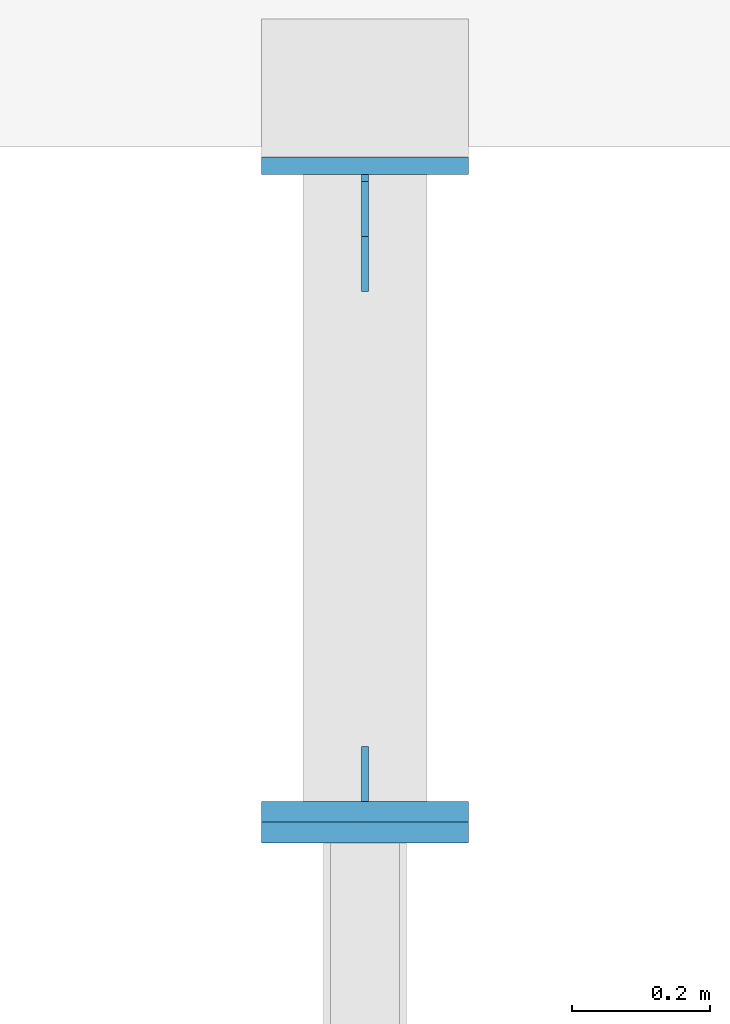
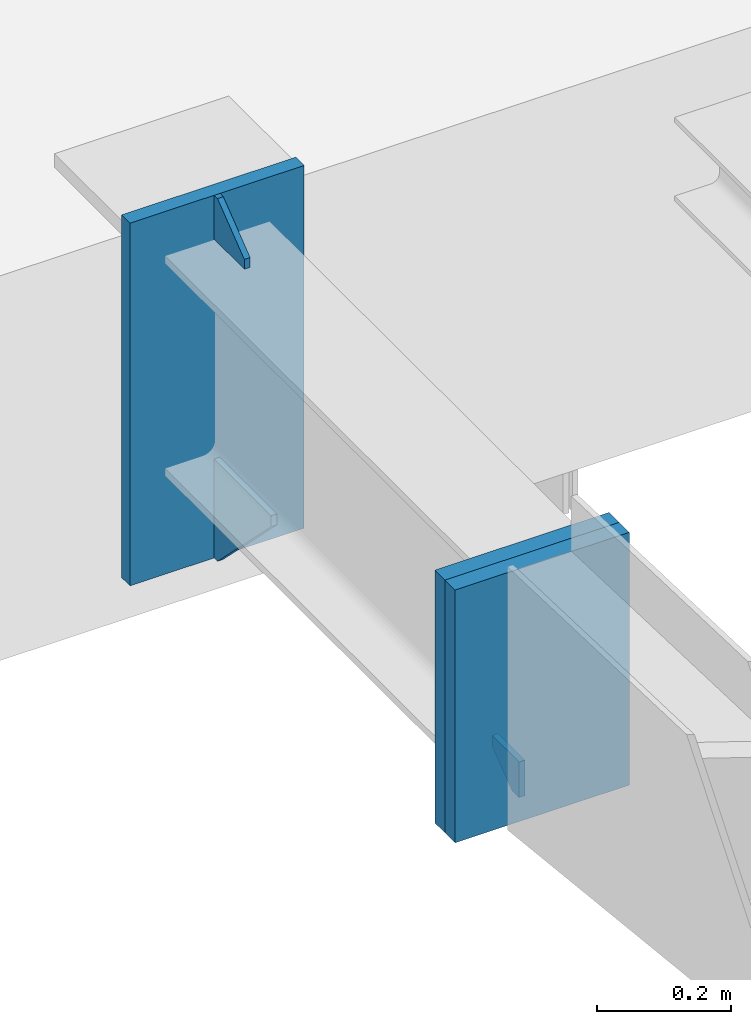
# One storey, part 8 of 27: 6 columns.
"""IFC2X3 building model written with IfcOpenShell, lengths in millimetres."""

from ifc_helpers import new_model, entity, si_unit, converted_unit, derived_unit, direction, frame, frame_2d, origin, origin_2d_with_axis, place, context, subcontext, project, spatial, rectangle, extrude, clip, halfspace, source, transform, mapped, material, type_object, type_shapes, element, save


model = new_model("IFC2X3")

# Units and contexts
model_context = context("Model", 3, precision=0.01, world=origin(), true_north=direction((6.12303176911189e-17, 1.0)))
body_context = subcontext(model_context, "Body", "Model", "MODEL_VIEW")
ifc_project = project(units=[si_unit("LENGTHUNIT", "METRE", prefix="MILLI"), si_unit("AREAUNIT", "SQUARE_METRE"), si_unit("VOLUMEUNIT", "CUBIC_METRE"), converted_unit("PLANEANGLEUNIT", "DEGREE", entity("IfcRatioMeasure", 0.0174532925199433), si_unit("PLANEANGLEUNIT", "RADIAN"), dimensions=[0, 0, 0, 0, 0, 0, 0]), si_unit("MASSUNIT", "GRAM", prefix="KILO"), derived_unit("MASSDENSITYUNIT", [(si_unit("MASSUNIT", "GRAM", prefix="KILO"), 1), (si_unit("LENGTHUNIT", "METRE"), -3)]), si_unit("TIMEUNIT", "SECOND"), si_unit("FREQUENCYUNIT", "HERTZ"), si_unit("THERMODYNAMICTEMPERATUREUNIT", "DEGREE_CELSIUS"), derived_unit("THERMALTRANSMITTANCEUNIT", [(si_unit("MASSUNIT", "GRAM", prefix="KILO"), 1), (si_unit("THERMODYNAMICTEMPERATUREUNIT", "KELVIN"), -1), (si_unit("TIMEUNIT", "SECOND"), -3)]), derived_unit("VOLUMETRICFLOWRATEUNIT", [(si_unit("LENGTHUNIT", "METRE"), 3), (si_unit("TIMEUNIT", "SECOND"), -1)]), si_unit("ELECTRICCURRENTUNIT", "AMPERE"), si_unit("ELECTRICVOLTAGEUNIT", "VOLT"), si_unit("POWERUNIT", "WATT"), si_unit("FORCEUNIT", "NEWTON", prefix="KILO"), si_unit("ILLUMINANCEUNIT", "LUX"), si_unit("LUMINOUSFLUXUNIT", "LUMEN"), si_unit("LUMINOUSINTENSITYUNIT", "CANDELA"), derived_unit("USERDEFINED", [(si_unit("MASSUNIT", "GRAM", prefix="KILO"), -1), (si_unit("LENGTHUNIT", "METRE"), -2), (si_unit("TIMEUNIT", "SECOND"), 3), (si_unit("LUMINOUSFLUXUNIT", "LUMEN"), 1)]), derived_unit("LINEARVELOCITYUNIT", [(si_unit("LENGTHUNIT", "METRE"), 1), (si_unit("TIMEUNIT", "SECOND"), -1)]), si_unit("PRESSUREUNIT", "PASCAL"), derived_unit("USERDEFINED", [(si_unit("LENGTHUNIT", "METRE"), -2), (si_unit("MASSUNIT", "GRAM", prefix="KILO"), 1), (si_unit("TIMEUNIT", "SECOND"), -2)])], contexts=[model_context])

# Site, building, storey
site_placement = place(None, origin())
site = spatial("IfcSite", under=ifc_project, at=site_placement, Name="Default", CompositionType="ELEMENT")
building_placement = place(site_placement, origin())
building = spatial("IfcBuilding", under=site, at=building_placement, Name="niet gebruiken", CompositionType="ELEMENT")
storey_placement = place(building_placement, frame((0.0, 0.0, 6000.0)))
storey = spatial("IfcBuildingStorey", under=building, at=storey_placement, Name="01 eerste verdieping", CompositionType="ELEMENT", Elevation=6000.0)

# Columns
ifc_material = material(Name="NLRS_h2_staal")
column_type_1 = type_object("IfcColumnType", Name="kolom stripstaal RECT_300x30", PredefinedType="COLUMN", material=ifc_material)
shared_shape_1 = source(origin(), body_context, "Body", "SweptSolid", [
    extrude(rectangle(XDim=30.0, YDim=300.0, at=origin_2d_with_axis()), frame((0.0, 0.0, 5420.0), z_axis=(0.0, 0.0, 1.0), x_axis=(0.0, -1.0, 0.0)), (0.0, 0.0, 1.0), 460.0),
])
type_shapes(column_type_1, [shared_shape_1])
for number, where, name in (
    (1, (157750.0, 120.0, -6000.0), "NLRS_28.11_SCO_TLB_stalen kolom stripstaal_gen:kolom stripstaal RECT_300x30"),
    (2, (157750.0, 150.0, -6000.0), "NLRS_28.11_SCO_TLB_stalen kolom stripstaal_gen:kolom stripstaal RECT_300x30"),
):
    element("IfcColumn", number, at=place(storey_placement, frame(where)), inside=storey, type_object=column_type_1, material=ifc_material, Name=name, ObjectType="kolom stripstaal RECT_300x30", context=body_context, shape_type="MappedRepresentation", body=[
        mapped(shared_shape_1, transform((0.0, 0.0, 0.0), scale=1.0)),
    ])
column_type_2 = type_object("IfcColumnType", Name="kolom stripstaal RECT_300x25", PredefinedType="COLUMN", material=ifc_material)
shared_shape_2 = source(origin(), body_context, "Body", "SweptSolid", [
    extrude(rectangle(XDim=25.0, YDim=300.0, at=origin_2d_with_axis()), frame((0.0, 0.0, 5300.0), z_axis=(0.0, 0.0, 1.0), x_axis=(0.0, -1.0, 0.0)), (0.0, 0.0, 1.0), 660.000000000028),
])
type_shapes(column_type_2, [shared_shape_2])
column_1_placement = place(storey_placement, frame((157750.0, 1086.5, -6000.0)))
element("IfcColumn", 3, at=column_1_placement, inside=storey, type_object=column_type_2, material=ifc_material, Name="NLRS_28.11_SCO_TLB_stalen kolom stripstaal_gen:kolom stripstaal RECT_300x25", ObjectType="kolom stripstaal RECT_300x25", context=body_context, shape_type="MappedRepresentation", body=[
    mapped(shared_shape_2, transform((0.0, 0.0, 0.0), scale=1.0)),
])
column_type_3 = type_object("IfcColumnType", Name="kolom stripstaal RECT_80x10", PredefinedType="COLUMN", material=ifc_material)
shared_shape_3 = source(origin(), body_context, "Body", "Clipping", [
    clip(extrude(rectangle(XDim=9.99999999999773, YDim=80.0, at=frame_2d((0.0, 1.17239551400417e-13), x_axis=(1.0, 0.0))), frame((157750.0, 205.0, 5415.0)), (0.0, 0.0, 1.0), 64.9999999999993), halfspace(frame((157670.0, 185.500105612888, 5415.0001098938), z_axis=(0.0, 0.592802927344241, -0.805347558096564), x_axis=(1.0, 0.0, 0.0)), False)),
])
type_shapes(column_type_3, [shared_shape_3])
column_2_placement = place(storey_placement, frame((0.0, 0.0, -6000.0)))
element("IfcColumn", 4, at=column_2_placement, inside=storey, type_object=column_type_3, material=ifc_material, Name="NLRS_28.11_SCO_TLB_stalen kolom stripstaal_gen:kolom stripstaal RECT_80x10", ObjectType="kolom stripstaal RECT_80x10", context=body_context, shape_type="MappedRepresentation", body=[
    mapped(shared_shape_3, transform((0.0, 0.0, 0.0), scale=1.0)),
])
column_type_4 = type_object("IfcColumnType", Name="kolom stripstaal RECT_90x10", PredefinedType="COLUMN", material=ifc_material)
shared_shape_4 = source(origin(), body_context, "Body", "Clipping", [
    clip(extrude(rectangle(XDim=10.0000000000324, YDim=90.0, at=frame_2d((0.0, 6.75015598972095e-14), x_axis=(1.0, 0.0))), frame((157750.0, 1029.0, 5880.0)), (0.0, 0.0, 1.0), 80.0000000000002), halfspace(frame((157660.0, 1064.0, 5960.0), z_axis=(0.0, -0.613940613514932, 0.789352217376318), x_axis=(1.0, 0.0, 0.0)), False)),
])
type_shapes(column_type_4, [shared_shape_4])
column_3_placement = place(storey_placement, frame((0.0, 0.0, -6000.0)))
element("IfcColumn", 5, at=column_3_placement, inside=storey, type_object=column_type_4, material=ifc_material, Name="NLRS_28.11_SCO_TLB_stalen kolom stripstaal_gen:kolom stripstaal RECT_90x10", ObjectType="kolom stripstaal RECT_90x10", context=body_context, shape_type="MappedRepresentation", body=[
    mapped(shared_shape_4, transform((0.0, 0.0, 0.0), scale=1.0)),
])
column_type_5 = type_object("IfcColumnType", Name="kolom stripstaal RECT_170x10", PredefinedType="COLUMN", material=ifc_material)
shared_shape_5 = source(origin(), body_context, "Body", "Clipping", [
    clip(extrude(rectangle(XDim=10.0000000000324, YDim=170.0, at=frame_2d((0.0, 7.105427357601e-14), x_axis=(1.0, 0.0))), frame((157750.0, 989.0, 5300.0)), (0.0, 0.0, 1.0), 180.0), halfspace(frame((157570.0, 894.0, 5470.0), z_axis=(0.0, -0.707106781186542, -0.707106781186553), x_axis=(1.0, 0.0, 0.0)), False)),
])
type_shapes(column_type_5, [shared_shape_5])
column_4_placement = place(storey_placement, frame((0.0, 0.0, -6000.0)))
element("IfcColumn", 6, at=column_4_placement, inside=storey, type_object=column_type_5, material=ifc_material, Name="NLRS_28.11_SCO_TLB_stalen kolom stripstaal_gen:kolom stripstaal RECT_170x10", ObjectType="kolom stripstaal RECT_170x10", context=body_context, shape_type="MappedRepresentation", body=[
    mapped(shared_shape_5, transform((0.0, 0.0, 0.0), scale=1.0)),
])

save(model, "model.ifc")
